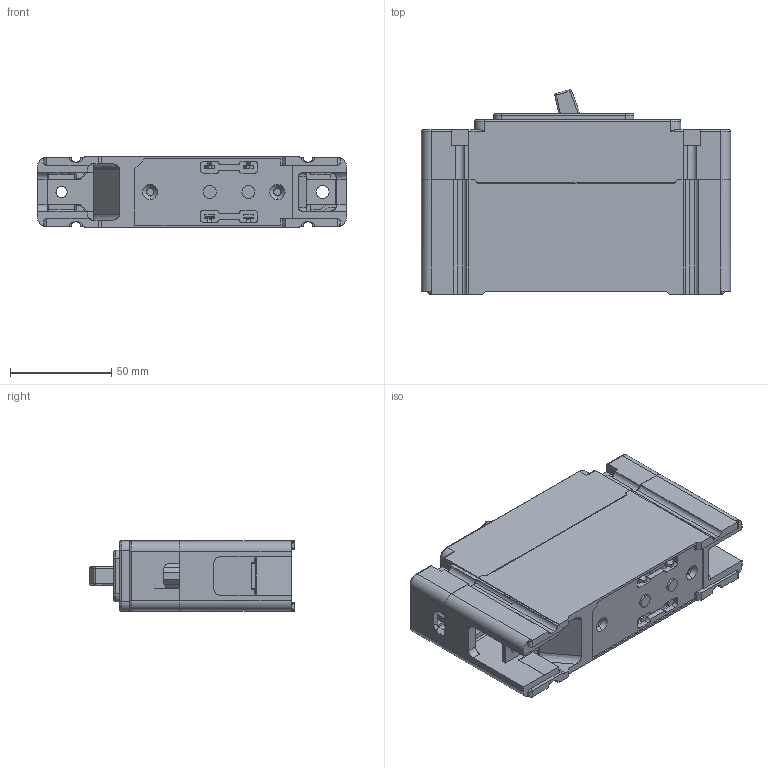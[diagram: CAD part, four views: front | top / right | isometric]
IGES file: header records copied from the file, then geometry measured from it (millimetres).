
Start section:  PTC IGES file: /data/CUSTOMERS/EATON/Eaton-Penn/translation-050503/iges /fd_1p_shrinkwrap.igs
Global section: file name: /data/CUSTOMERS/EATON/Eaton-Penn/translation-050503/iges/fd_1p_shrinkwrap.igs; native system: Pro/ENGINEER by Parametric Technology Corporation; preprocessor: 2001150; author: hopkin_m; organization: Unknown; date: 030508.114256; units: inch
Bounding box: 152.4 x 100.72 x 34.95 mm (x, y, z)
Surface area: 89004.4 mm2 (no closed solid volume)
Topology: 0 solids, 0 shells, 770 faces, 4406 edges, 4403 vertices
Faces by surface type: bspline 477, revolution 293
